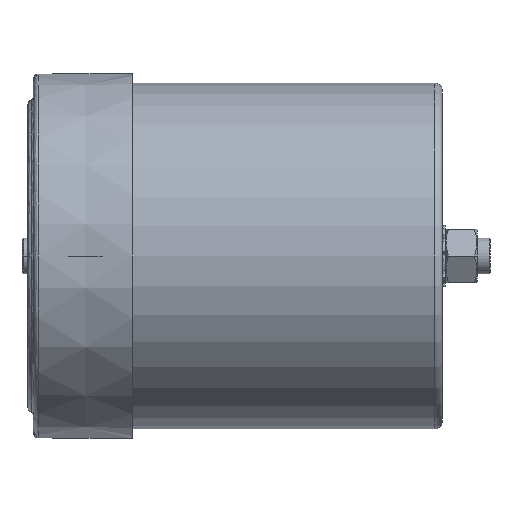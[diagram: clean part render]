
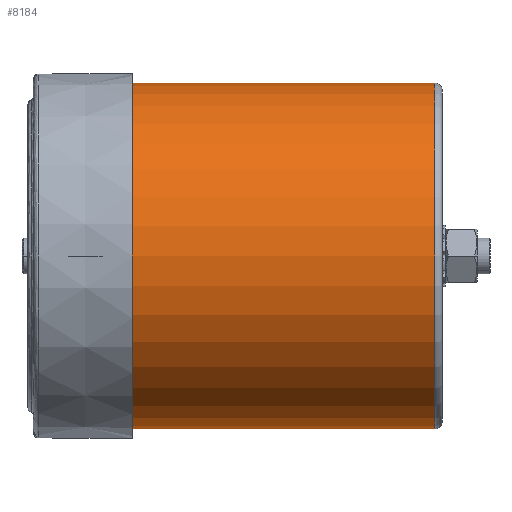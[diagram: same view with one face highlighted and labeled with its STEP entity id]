
A CAD part, left-side view. The second image highlights one B-rep face of the part: STEP entity #8184.
In plain terms, the highlighted cylindrical face has radius 58 mm (diameter 116 mm), a partial arc.
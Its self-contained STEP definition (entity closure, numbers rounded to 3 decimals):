
#153 = DIRECTION ( 'NONE',  ( 0., -1., 0. ) ) ;
#962 = VERTEX_POINT ( 'NONE', #14778 ) ;
#1464 = DIRECTION ( 'NONE',  ( 0., -1., 0. ) ) ;
#1529 = DIRECTION ( 'NONE',  ( 0., 1., 0. ) ) ;
#2603 = VERTEX_POINT ( 'NONE', #15425 ) ;
#2940 = CARTESIAN_POINT ( 'NONE',  ( 0., -134.4, -58. ) ) ;
#3272 = CARTESIAN_POINT ( 'NONE',  ( 0., -134.4, 0. ) ) ;
#3275 = DIRECTION ( 'NONE',  ( 0., 0., -1. ) ) ;
#3438 = AXIS2_PLACEMENT_3D ( 'NONE', #6572, #1529, #3275 ) ;
#5681 = LINE ( 'NONE', #9622, #14112 ) ;
#6187 = CIRCLE ( 'NONE', #12318, 58. ) ;
#6368 = CARTESIAN_POINT ( 'NONE',  ( 0., -131.9, 58. ) ) ;
#6427 = ORIENTED_EDGE ( 'NONE', *, *, #17355, .F. ) ;
#6572 = CARTESIAN_POINT ( 'NONE',  ( 0., -131.9, 0. ) ) ;
#6606 = DIRECTION ( 'NONE',  ( 0., 0., -1. ) ) ;
#7884 = LINE ( 'NONE', #2940, #10617 ) ;
#7912 = CARTESIAN_POINT ( 'NONE',  ( 0., 0., 0. ) ) ;
#8054 = DIRECTION ( 'NONE',  ( 0., 1., 0. ) ) ;
#8184 = ADVANCED_FACE ( 'NONE', ( #9827 ), #10064, .T. ) ;
#8963 = CIRCLE ( 'NONE', #3438, 58. ) ;
#9587 = EDGE_LOOP ( 'NONE', ( #14064, #6427, #14129, #17437 ) ) ;
#9622 = CARTESIAN_POINT ( 'NONE',  ( 0., -134.4, 58. ) ) ;
#9827 = FACE_OUTER_BOUND ( 'NONE', #9587, .T. ) ;
#10064 = CYLINDRICAL_SURFACE ( 'NONE', #18926, 58. ) ;
#10617 = VECTOR ( 'NONE', #1464, 1000. ) ;
#12244 = CARTESIAN_POINT ( 'NONE',  ( 0., 0., -58. ) ) ;
#12318 = AXIS2_PLACEMENT_3D ( 'NONE', #7912, #8054, #6606 ) ;
#12727 = VERTEX_POINT ( 'NONE', #12244 ) ;
#14064 = ORIENTED_EDGE ( 'NONE', *, *, #17949, .F. ) ;
#14112 = VECTOR ( 'NONE', #153, 1000. ) ;
#14129 = ORIENTED_EDGE ( 'NONE', *, *, #18185, .T. ) ;
#14260 = DIRECTION ( 'NONE',  ( 0., -1., 0. ) ) ;
#14778 = CARTESIAN_POINT ( 'NONE',  ( 0., -131.9, -58. ) ) ;
#15425 = CARTESIAN_POINT ( 'NONE',  ( 0., 0., 58. ) ) ;
#15505 = EDGE_CURVE ( 'NONE', #962, #17889, #8963, .T. ) ;
#17355 = EDGE_CURVE ( 'NONE', #12727, #2603, #6187, .T. ) ;
#17420 = DIRECTION ( 'NONE',  ( 0., 0., -1. ) ) ;
#17437 = ORIENTED_EDGE ( 'NONE', *, *, #15505, .T. ) ;
#17889 = VERTEX_POINT ( 'NONE', #6368 ) ;
#17949 = EDGE_CURVE ( 'NONE', #2603, #17889, #5681, .T. ) ;
#18185 = EDGE_CURVE ( 'NONE', #12727, #962, #7884, .T. ) ;
#18926 = AXIS2_PLACEMENT_3D ( 'NONE', #3272, #14260, #17420 ) ;
